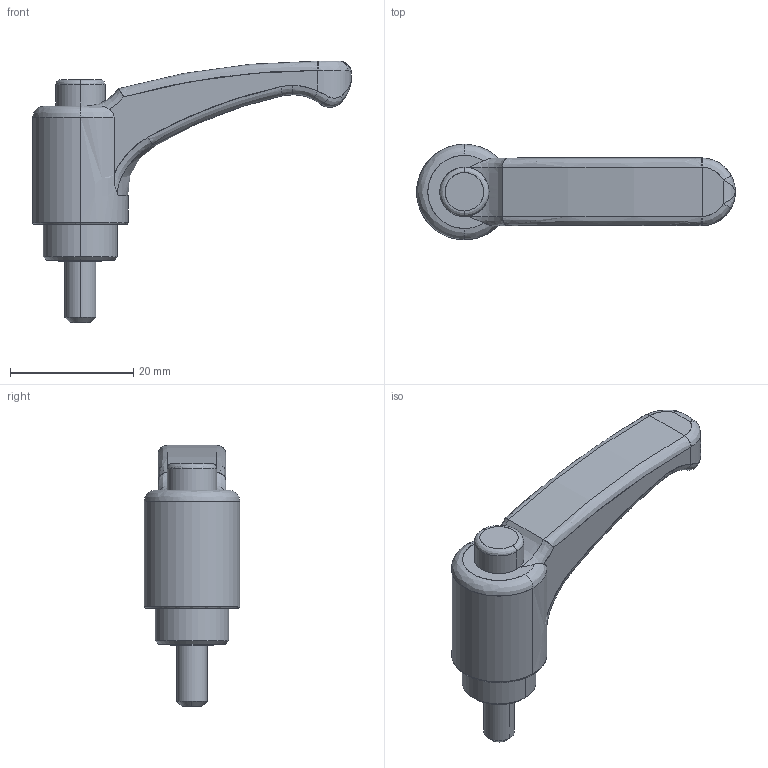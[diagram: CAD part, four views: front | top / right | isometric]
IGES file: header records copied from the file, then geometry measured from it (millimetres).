
Start section: SolidWorks IGES file using analytic representation for surfaces
Global section: file name: X:\11_SW2020-Inv2020\00_全2021-11新製品まで\e\EAL44X10\eal44x10.IGS; native system: SolidWorks 2020; preprocessor: SolidWorks 2020; author: ImaoCorp; date: 211025.103806; units: millimetre
Bounding box: 51.75 x 15.5 x 42.5 mm (x, y, z)
Surface area: 2996.9 mm2 (no closed solid volume)
Topology: 0 solids, 0 shells, 64 faces, 860 edges, 860 vertices
Faces by surface type: bspline 43, revolution 21
